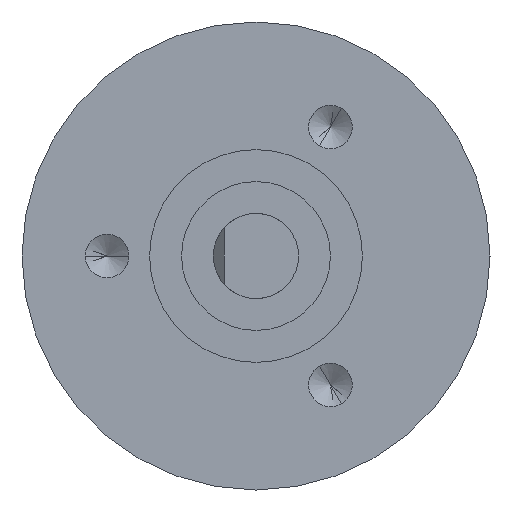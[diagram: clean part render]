
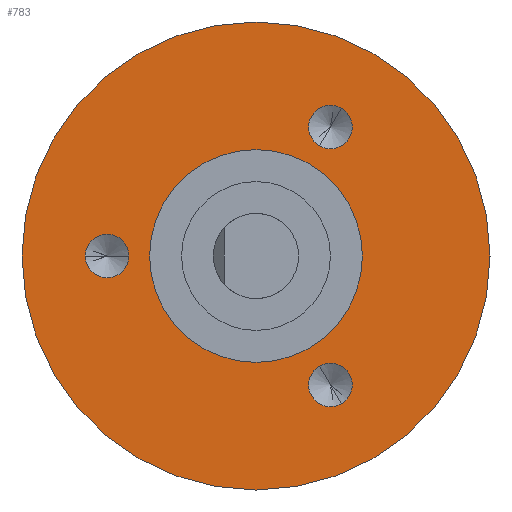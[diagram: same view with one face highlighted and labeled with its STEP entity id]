
A CAD part, left-side view. The second image highlights one B-rep face of the part: STEP entity #783.
In plain terms, the highlighted planar face has unit normal (-1, 0, 0).
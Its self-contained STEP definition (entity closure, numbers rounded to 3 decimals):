
#161=CARTESIAN_POINT('',(14.85,0.,0.));
#162=DIRECTION('',(1.,0.,0.));
#163=DIRECTION('',(0.,1.,0.));
#164=AXIS2_PLACEMENT_3D('',#161,#162,#163);
#169=CARTESIAN_POINT('',(14.85,0.,0.));
#170=DIRECTION('',(-1.,0.,0.));
#171=DIRECTION('',(0.,1.,0.));
#172=AXIS2_PLACEMENT_3D('',#169,#170,#171);
#177=CARTESIAN_POINT('',(14.85,7.,0.));
#178=DIRECTION('',(-1.,0.,0.));
#179=DIRECTION('',(0.,1.,0.));
#180=AXIS2_PLACEMENT_3D('',#177,#178,#179);
#185=CARTESIAN_POINT('',(14.85,7.,0.));
#186=DIRECTION('',(-1.,0.,0.));
#187=DIRECTION('',(0.,-1.,0.));
#188=AXIS2_PLACEMENT_3D('',#185,#186,#187);
#193=CARTESIAN_POINT('',(14.85,-3.5,-6.062));
#194=DIRECTION('',(-1.,0.,0.));
#195=DIRECTION('',(0.,-0.5,-0.866));
#196=AXIS2_PLACEMENT_3D('',#193,#194,#195);
#201=CARTESIAN_POINT('',(14.85,-3.5,-6.062));
#202=DIRECTION('',(-1.,0.,0.));
#203=DIRECTION('',(0.,0.5,0.866));
#204=AXIS2_PLACEMENT_3D('',#201,#202,#203);
#209=CARTESIAN_POINT('',(14.85,-3.5,6.062));
#210=DIRECTION('',(-1.,0.,0.));
#211=DIRECTION('',(0.,-0.5,0.866));
#212=AXIS2_PLACEMENT_3D('',#209,#210,#211);
#217=CARTESIAN_POINT('',(14.85,-3.5,6.062));
#218=DIRECTION('',(-1.,0.,0.));
#219=DIRECTION('',(0.,0.5,-0.866));
#220=AXIS2_PLACEMENT_3D('',#217,#218,#219);
#239=CARTESIAN_POINT('',(14.85,0.,0.));
#240=DIRECTION('',(-1.,0.,0.));
#241=DIRECTION('',(0.,1.,0.));
#242=AXIS2_PLACEMENT_3D('',#239,#240,#241);
#247=CARTESIAN_POINT('',(14.85,0.,0.));
#248=DIRECTION('',(1.,0.,0.));
#249=DIRECTION('',(0.,1.,0.));
#250=AXIS2_PLACEMENT_3D('',#247,#248,#249);
#571=CARTESIAN_POINT('',(14.85,5.,0.));
#573=VERTEX_POINT('',#571);
#579=CARTESIAN_POINT('',(14.85,-5.,0.));
#581=VERTEX_POINT('',#579);
#591=CARTESIAN_POINT('',(14.85,11.,0.));
#592=CARTESIAN_POINT('',(14.85,-11.,0.));
#593=VERTEX_POINT('',#591);
#594=VERTEX_POINT('',#592);
#624=CARTESIAN_POINT('',(14.85,8.025,0.));
#625=CARTESIAN_POINT('',(14.85,5.975,0.));
#626=VERTEX_POINT('',#624);
#627=VERTEX_POINT('',#625);
#634=CARTESIAN_POINT('',(14.85,-4.013,-6.95));
#635=CARTESIAN_POINT('',(14.85,-2.988,-5.175));
#636=VERTEX_POINT('',#634);
#637=VERTEX_POINT('',#635);
#644=CARTESIAN_POINT('',(14.85,-4.013,6.95));
#645=CARTESIAN_POINT('',(14.85,-2.988,5.175));
#646=VERTEX_POINT('',#644);
#647=VERTEX_POINT('',#645);
#750=CARTESIAN_POINT('',(14.85,0.,0.));
#751=DIRECTION('',(1.,0.,0.));
#752=DIRECTION('',(0.,-1.,0.));
#753=AXIS2_PLACEMENT_3D('',#750,#751,#752);
#754=PLANE('',#753);
#755=ORIENTED_EDGE('',*,*,#731,.T.);
#756=ORIENTED_EDGE('',*,*,#673,.F.);
#757=EDGE_LOOP('',(#755,#756));
#758=FACE_OUTER_BOUND('',#757,.F.);
#760=ORIENTED_EDGE('',*,*,#759,.T.);
#762=ORIENTED_EDGE('',*,*,#761,.F.);
#763=EDGE_LOOP('',(#760,#762));
#764=FACE_BOUND('',#763,.F.);
#766=ORIENTED_EDGE('',*,*,#765,.T.);
#768=ORIENTED_EDGE('',*,*,#767,.T.);
#769=EDGE_LOOP('',(#766,#768));
#770=FACE_BOUND('',#769,.F.);
#772=ORIENTED_EDGE('',*,*,#771,.T.);
#774=ORIENTED_EDGE('',*,*,#773,.T.);
#775=EDGE_LOOP('',(#772,#774));
#776=FACE_BOUND('',#775,.F.);
#778=ORIENTED_EDGE('',*,*,#777,.T.);
#780=ORIENTED_EDGE('',*,*,#779,.T.);
#781=EDGE_LOOP('',(#778,#780));
#782=FACE_BOUND('',#781,.F.);
#783=ADVANCED_FACE('',(#758,#764,#770,#776,#782),#754,.F.);
#165=CIRCLE('',#164,11.);
#173=CIRCLE('',#172,11.);
#181=CIRCLE('',#180,1.025);
#189=CIRCLE('',#188,1.025);
#197=CIRCLE('',#196,1.025);
#205=CIRCLE('',#204,1.025);
#213=CIRCLE('',#212,1.025);
#221=CIRCLE('',#220,1.025);
#243=CIRCLE('',#242,5.);
#251=CIRCLE('',#250,5.);
#673=EDGE_CURVE('',#593,#594,#173,.T.);
#731=EDGE_CURVE('',#593,#594,#165,.T.);
#759=EDGE_CURVE('',#573,#581,#243,.T.);
#761=EDGE_CURVE('',#573,#581,#251,.T.);
#765=EDGE_CURVE('',#626,#627,#181,.T.);
#767=EDGE_CURVE('',#627,#626,#189,.T.);
#771=EDGE_CURVE('',#636,#637,#197,.T.);
#773=EDGE_CURVE('',#637,#636,#205,.T.);
#777=EDGE_CURVE('',#646,#647,#213,.T.);
#779=EDGE_CURVE('',#647,#646,#221,.T.);
